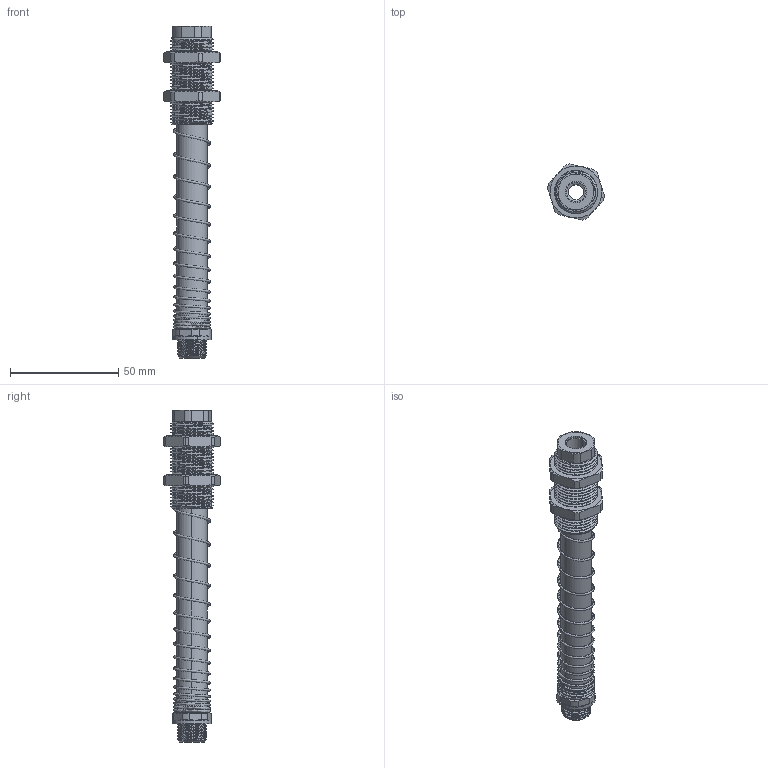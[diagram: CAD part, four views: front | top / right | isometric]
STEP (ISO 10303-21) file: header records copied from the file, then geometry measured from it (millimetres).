
FILE_DESCRIPTION (( 'STEP AP203' ), '1' );
FILE_NAME ('FSTE-G14-AG-75弹簧缓冲支杆.STEP', '2024-05-16T02:14:19', ( '微软用户' ), ( '微软中国' ), 'SwSTEP 2.0', 'SolidWorks 2018', '' );
FILE_SCHEMA (( 'CONFIG_CONTROL_DESIGN' ));
Length unit declared in the file: millimetre
Products named in the file (8): FSTE-G14-AG-75粟銅; FSTE-G14-AG-75粟銅遣喳盓裝; FSTE-G14-AG-75粣裝; FSTE-G14-AG-75鞠褒情蹟譫17; FSTE-G14-AG-75踢撿芛; FSTE-G14-AG-75鞠褒情蹟譫24; FSTE-G14-AG-75掛极; FSTE-G14-AG-75菜え
Assembly tree (8 placements, depth 2):
  FSTE-G14-AG-75粟銅遣喳盓裝
    FSTE-G14-AG-75粣裝
    FSTE-G14-AG-75鞠褒情蹟譫17
    FSTE-G14-AG-75踢撿芛
    FSTE-G14-AG-75掛极
    FSTE-G14-AG-75粟銅
    FSTE-G14-AG-75鞠褒情蹟譫24  x2
    FSTE-G14-AG-75菜え
Bounding box: 26.24 x 25.9 x 153.3 mm (x, y, z)
Volume: 25876.7 mm3; surface area: 24036.3 mm2
Topology: 8 solids, 8 shells, 261 faces, 664 edges, 426 vertices
Faces by surface type: cylinder 140, plane 51, sphere 40, cone 19, bspline 11
Entity records: 23560 total; most frequent: CARTESIAN_POINT 17548, ORIENTED_EDGE 1170, DIRECTION 1037, EDGE_CURVE 585, AXIS2_PLACEMENT_3D 434, VERTEX_POINT 378, EDGE_LOOP 247, FACE_OUTER_BOUND 228
